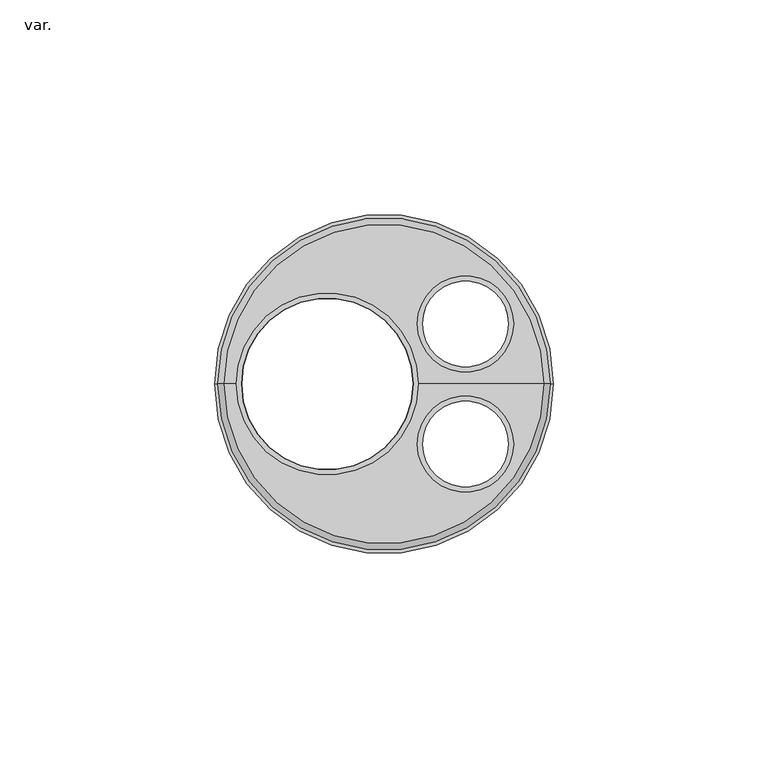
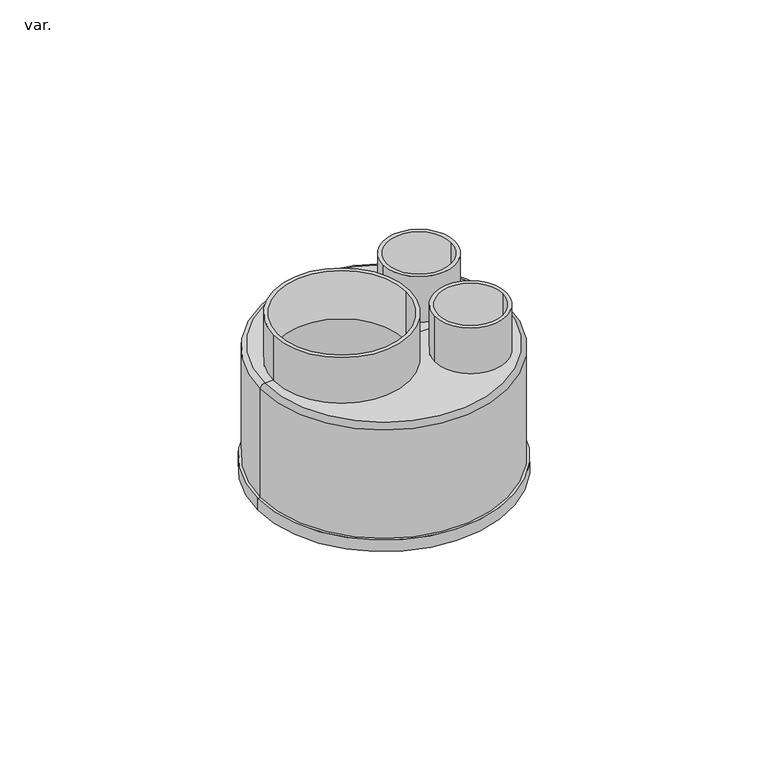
"""IFC4 building model written with IfcOpenShell, lengths in millimetres: pipe fitting geometry, AmancoWavin_ConexõesdeTubos_PEXCoifaTripla : var.."""

from ifc_helpers import new_model, si_unit, point, frame, origin, place, context, project, spatial, polyline, circle_curve, ellipse_curve, trimmed, source, transform, mapped, element, save
from ifc_brep_helpers import plane_surface, cylinder_surface, revolved_surface, advanced_brep


def var_ee3ce5f6(model_context):
    return source(origin(), model_context, "Body", "AdvancedBrep", [
        advanced_brep(
        [(-103.0559639, 0.0, 16.0), (-60.6559639, 0.0, 16.0), (-101.8559639, 0.0, 16.0), (-61.8559639, 0.0, 16.0), (-103.0559639, 0.0, 0.0), (-60.6559639, 0.0, 0.0), (-101.8559639, 0.0, 0.0), (-61.8559639, 0.0, 0.0)],
        [
            (0, 1, circle_curve(frame((-81.8559639, 0.0, 16.0), z_axis=(0.0, 0.0, 1.0), x_axis=(1.0, 0.0, 0.0)), 21.2)),
            (1, 0, circle_curve(frame((-81.8559639, 0.0, 16.0), z_axis=(0.0, 0.0, 1.0), x_axis=(1.0, 0.0, 0.0)), 21.2)),
            (2, 3, circle_curve(frame((-81.8559639, 0.0, 16.0), z_axis=(0.0, 0.0, -1.0), x_axis=(1.0, 0.0, 0.0)), 20.0)),
            (3, 2, circle_curve(frame((-81.8559639, 0.0, 16.0), z_axis=(0.0, 0.0, -1.0), x_axis=(1.0, 0.0, 0.0)), 20.0)),
            (0, 4),
            (4, 5, circle_curve(frame((-81.8559639, 0.0, 0.0), z_axis=(0.0, 0.0, 1.0), x_axis=(1.0, 0.0, 0.0)), 21.2)),
            (5, 1),
            (5, 4, circle_curve(frame((-81.8559639, 0.0, 0.0), z_axis=(0.0, 0.0, 1.0), x_axis=(1.0, 0.0, 0.0)), 21.2)),
            (2, 6),
            (6, 7, circle_curve(frame((-81.8559639, 0.0, 0.0), z_axis=(0.0, 0.0, -1.0), x_axis=(1.0, 0.0, 0.0)), 20.0)),
            (7, 3),
            (7, 6, circle_curve(frame((-81.8559639, 0.0, 0.0), z_axis=(0.0, 0.0, -1.0), x_axis=(1.0, 0.0, 0.0)), 20.0)),
            (4, 6),
            (7, 5),
        ],
        [
            plane_surface(frame((-60.6559639, 0.0, 16.0), z_axis=(0.0, 0.0, 1.0), x_axis=(0.0, 1.0, 0.0))),
            cylinder_surface(frame((-81.8559639, 0.0, -2.0), z_axis=(0.0, 0.0, 1.0), x_axis=(1.0, 0.0, 0.0)), 21.2),
            revolved_surface(polyline([(-61.855963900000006, 0.0, 0.0), (-61.855963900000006, 0.0, 16.0)]), (-81.8559639, 0.0, 0.0), (0.0, 0.0, -1.0)),
            plane_surface(frame((-68.6559639, 0.0, 0.0), z_axis=(0.0, 0.0, -1.0), x_axis=(-1.0, 0.0, 0.0))),
        ],
        [
            (0, [[1, 2], [3, 4]]),
            (1, [[-1, 5, 6, 7]]),
            (1, [[-2, -7, 8, -5]]),
            (2, [[-3, 9, 10, 11]]),
            (2, [[-4, -11, 12, -9]]),
            (3, [[13, -12, 14, -6]]),
            (3, [[-13, -8, -14, -10]]),
        ],
    ),
        advanced_brep(
        [(-60.8559639, 14.0, 16.0), (-38.4559639, 14.0, 16.0), (-59.6559639, 14.0, 16.0), (-39.6559639, 14.0, 16.0), (-60.8559639, 14.0, 0.0), (-38.4559639, 14.0, 0.0), (-59.6559639, 14.0, 0.0), (-39.6559639, 14.0, 0.0)],
        [
            (0, 1, circle_curve(frame((-49.6559639, 14.0, 16.0), z_axis=(0.0, 0.0, 1.0), x_axis=(1.0, 0.0, 0.0)), 11.2)),
            (1, 0, circle_curve(frame((-49.6559639, 14.0, 16.0), z_axis=(0.0, 0.0, 1.0), x_axis=(1.0, 0.0, 0.0)), 11.2)),
            (2, 3, circle_curve(frame((-49.6559639, 14.0, 16.0), z_axis=(0.0, 0.0, -1.0), x_axis=(1.0, 0.0, 0.0)), 10.0)),
            (3, 2, circle_curve(frame((-49.6559639, 14.0, 16.0), z_axis=(0.0, 0.0, -1.0), x_axis=(1.0, 0.0, 0.0)), 10.0)),
            (0, 4),
            (4, 5, circle_curve(frame((-49.6559639, 14.0, 0.0), z_axis=(0.0, 0.0, 1.0), x_axis=(1.0, 0.0, 0.0)), 11.2)),
            (5, 1),
            (5, 4, circle_curve(frame((-49.6559639, 14.0, 0.0), z_axis=(0.0, 0.0, 1.0), x_axis=(1.0, 0.0, 0.0)), 11.2)),
            (2, 6),
            (6, 7, circle_curve(frame((-49.6559639, 14.0, 0.0), z_axis=(0.0, 0.0, -1.0), x_axis=(1.0, 0.0, 0.0)), 10.0)),
            (7, 3),
            (7, 6, circle_curve(frame((-49.6559639, 14.0, 0.0), z_axis=(0.0, 0.0, -1.0), x_axis=(1.0, 0.0, 0.0)), 10.0)),
        ],
        [
            plane_surface(frame((-38.4559639, 14.0, 16.0), z_axis=(0.0, 0.0, 1.0), x_axis=(0.0, 1.0, 0.0))),
            cylinder_surface(frame((-49.6559639, 14.0, -2.0), z_axis=(0.0, 0.0, 1.0), x_axis=(1.0, 0.0, 0.0)), 11.2),
            revolved_surface(polyline([(-39.6559639, 14.0, 0.0), (-39.6559639, 14.0, 16.0)]), (-49.6559639, 14.0, 0.0), (0.0, 0.0, -1.0)),
            plane_surface(frame((-68.6559639, 0.0, 0.0), z_axis=(0.0, 0.0, -1.0), x_axis=(-1.0, 0.0, 0.0))),
        ],
        [
            (0, [[1, 2], [3, 4]]),
            (1, [[-1, 5, 6, 7]]),
            (1, [[-2, -7, 8, -5]]),
            (2, [[-3, 9, 10, 11]]),
            (2, [[-4, -11, 12, -9]]),
            (3, [[-6, -8], [-10, -12]]),
        ],
    ),
        advanced_brep(
        [(-60.8559639, -14.0, 16.0), (-38.4559639, -14.0, 16.0), (-59.6559639, -14.0, 16.0), (-39.6559639, -14.0, 16.0), (-60.8559639, -14.0, 0.0), (-38.4559639, -14.0, 0.0), (-59.6559639, -14.0, 0.0), (-39.6559639, -14.0, 0.0)],
        [
            (0, 1, circle_curve(frame((-49.6559639, -14.0, 16.0), z_axis=(0.0, 0.0, 1.0), x_axis=(1.0, 0.0, 0.0)), 11.2)),
            (1, 0, circle_curve(frame((-49.6559639, -14.0, 16.0), z_axis=(0.0, 0.0, 1.0), x_axis=(1.0, 0.0, 0.0)), 11.2)),
            (2, 3, circle_curve(frame((-49.6559639, -14.0, 16.0), z_axis=(0.0, 0.0, -1.0), x_axis=(1.0, 0.0, 0.0)), 10.0)),
            (3, 2, circle_curve(frame((-49.6559639, -14.0, 16.0), z_axis=(0.0, 0.0, -1.0), x_axis=(1.0, 0.0, 0.0)), 10.0)),
            (0, 4),
            (4, 5, circle_curve(frame((-49.6559639, -14.0, 0.0), z_axis=(0.0, 0.0, 1.0), x_axis=(1.0, 0.0, 0.0)), 11.2)),
            (5, 1),
            (5, 4, circle_curve(frame((-49.6559639, -14.0, 0.0), z_axis=(0.0, 0.0, 1.0), x_axis=(1.0, 0.0, 0.0)), 11.2)),
            (2, 6),
            (6, 7, circle_curve(frame((-49.6559639, -14.0, 0.0), z_axis=(0.0, 0.0, -1.0), x_axis=(1.0, 0.0, 0.0)), 10.0)),
            (7, 3),
            (7, 6, circle_curve(frame((-49.6559639, -14.0, 0.0), z_axis=(0.0, 0.0, -1.0), x_axis=(1.0, 0.0, 0.0)), 10.0)),
        ],
        [
            plane_surface(frame((-38.4559639, 14.0, 16.0), z_axis=(0.0, 0.0, 1.0), x_axis=(0.0, 1.0, 0.0))),
            cylinder_surface(frame((-49.6559639, -14.0, 0.0), z_axis=(0.0, 0.0, 1.0), x_axis=(1.0, 0.0, 0.0)), 11.2),
            revolved_surface(polyline([(-39.6559639, -14.0, 0.0), (-39.6559639, -14.0, 16.0)]), (-49.6559639, -14.0, 0.0), (0.0, 0.0, -1.0)),
            plane_surface(frame((-68.6559639, 0.0, 0.0), z_axis=(0.0, 0.0, -1.0), x_axis=(-1.0, 0.0, 0.0))),
        ],
        [
            (0, [[1, 2], [3, 4]]),
            (1, [[-1, 5, 6, 7]]),
            (1, [[-2, -7, 8, -5]]),
            (2, [[-3, 9, 10, 11]]),
            (2, [[-4, -11, 12, -9]]),
            (3, [[-6, -8], [-10, -12]]),
        ],
    ),
        advanced_brep(
        [(-105.8559639, 0.0, 1.2), (-31.4559639, 0.0, 1.2), (-61.8559639, 0.0, 1.2), (-101.8559639, 0.0, 1.2), (-39.6559639, -14.0, 1.2), (-59.6559639, -14.0, 1.2), (-39.6559639, 14.0, 1.2), (-59.6559639, 14.0, 1.2), (-31.1559639, 0.0, 0.0), (-106.1559639, 0.0, 0.0), (-101.8559639, 0.0, 0.0), (-61.8559639, 0.0, 0.0), (-59.6559639, -14.0, 0.0), (-39.6559639, -14.0, 0.0), (-59.6559639, 14.0, 0.0), (-39.6559639, 14.0, 0.0), (-31.1559639, 0.0, -40.0), (-106.1559639, 0.0, -40.0), (-29.1559639, 0.0, -40.0), (-108.1559639, 0.0, -40.0), (-29.1559639, 0.0, -36.2), (-108.1559639, 0.0, -36.2), (-29.9559639, 0.0, -36.2), (-107.3559639, 0.0, -36.2), (-29.9559639, 0.0, -0.3), (-107.3559639, 0.0, -0.3)],
        [
            (0, 1, circle_curve(frame((-68.6559639, 0.0, 1.2), z_axis=(0.0, 0.0, 1.0), x_axis=(-1.0, 0.0, 0.0)), 37.2)),
            (1, 2),
            (2, 3, circle_curve(frame((-81.8559639, 0.0, 1.2), z_axis=(0.0, 0.0, -1.0), x_axis=(1.0, 0.0, 0.0)), 20.0)),
            (3, 0),
            (4, 5, circle_curve(frame((-49.6559639, -14.0, 1.2), z_axis=(0.0, 0.0, -1.0), x_axis=(1.0, 0.0, 0.0)), 10.0)),
            (5, 4, circle_curve(frame((-49.6559639, -14.0, 1.2), z_axis=(0.0, 0.0, -1.0), x_axis=(1.0, 0.0, 0.0)), 10.0)),
            (1, 0, circle_curve(frame((-68.6559639, 0.0, 1.2), z_axis=(0.0, 0.0, 1.0), x_axis=(-1.0, 0.0, 0.0)), 37.2)),
            (3, 2, circle_curve(frame((-81.8559639, 0.0, 1.2), z_axis=(0.0, 0.0, -1.0), x_axis=(1.0, 0.0, 0.0)), 20.0)),
            (6, 7, circle_curve(frame((-49.6559639, 14.0, 1.2), z_axis=(0.0, 0.0, -1.0), x_axis=(1.0, 0.0, 0.0)), 10.0)),
            (7, 6, circle_curve(frame((-49.6559639, 14.0, 1.2), z_axis=(0.0, 0.0, -1.0), x_axis=(1.0, 0.0, 0.0)), 10.0)),
            (8, 9, circle_curve(frame((-68.6559639, 0.0, 0.0), z_axis=(0.0, 0.0, -1.0), x_axis=(-1.0, 0.0, 0.0)), 37.5)),
            (9, 10),
            (10, 11, circle_curve(frame((-81.8559639, 0.0, 0.0), z_axis=(0.0, 0.0, 1.0), x_axis=(1.0, 0.0, 0.0)), 20.0)),
            (11, 8),
            (12, 13, circle_curve(frame((-49.6559639, -14.0, 0.0), z_axis=(0.0, 0.0, 1.0), x_axis=(1.0, 0.0, 0.0)), 10.0)),
            (13, 12, circle_curve(frame((-49.6559639, -14.0, 0.0), z_axis=(0.0, 0.0, 1.0), x_axis=(1.0, 0.0, 0.0)), 10.0)),
            (9, 8, circle_curve(frame((-68.6559639, 0.0, 0.0), z_axis=(0.0, 0.0, -1.0), x_axis=(-1.0, 0.0, 0.0)), 37.5)),
            (11, 10, circle_curve(frame((-81.8559639, 0.0, 0.0), z_axis=(0.0, 0.0, 1.0), x_axis=(1.0, 0.0, 0.0)), 20.0)),
            (14, 15, circle_curve(frame((-49.6559639, 14.0, 0.0), z_axis=(0.0, 0.0, 1.0), x_axis=(1.0, 0.0, 0.0)), 10.0)),
            (15, 14, circle_curve(frame((-49.6559639, 14.0, 0.0), z_axis=(0.0, 0.0, 1.0), x_axis=(1.0, 0.0, 0.0)), 10.0)),
            (8, 16),
            (16, 17, circle_curve(frame((-68.6559639, 0.0, -40.0), z_axis=(0.0, 0.0, -1.0), x_axis=(-1.0, 0.0, 0.0)), 37.5)),
            (17, 9),
            (17, 16, circle_curve(frame((-68.6559639, 0.0, -40.0), z_axis=(0.0, 0.0, -1.0), x_axis=(-1.0, 0.0, 0.0)), 37.5)),
            (16, 18),
            (18, 19, circle_curve(frame((-68.6559639, 0.0, -40.0), z_axis=(0.0, 0.0, -1.0), x_axis=(-1.0, 0.0, 0.0)), 39.5)),
            (19, 17),
            (19, 18, circle_curve(frame((-68.6559639, 0.0, -40.0), z_axis=(0.0, 0.0, -1.0), x_axis=(-1.0, 0.0, 0.0)), 39.5)),
            (18, 20),
            (20, 21, circle_curve(frame((-68.6559639, 0.0, -36.2), z_axis=(0.0, 0.0, -1.0), x_axis=(-1.0, 0.0, 0.0)), 39.5)),
            (21, 19),
            (21, 20, circle_curve(frame((-68.6559639, 0.0, -36.2), z_axis=(0.0, 0.0, -1.0), x_axis=(-1.0, 0.0, 0.0)), 39.5)),
            (20, 22),
            (22, 23, circle_curve(frame((-68.6559639, 0.0, -36.2), z_axis=(0.0, 0.0, -1.0), x_axis=(-1.0, 0.0, 0.0)), 38.7)),
            (23, 21),
            (23, 22, circle_curve(frame((-68.6559639, 0.0, -36.2), z_axis=(0.0, 0.0, -1.0), x_axis=(-1.0, 0.0, 0.0)), 38.7)),
            (22, 24),
            (24, 25, circle_curve(frame((-68.6559639, 0.0, -0.3), z_axis=(0.0, 0.0, -1.0), x_axis=(-1.0, 0.0, 0.0)), 38.7)),
            (25, 23),
            (25, 24, circle_curve(frame((-68.6559639, 0.0, -0.3), z_axis=(0.0, 0.0, -1.0), x_axis=(-1.0, 0.0, 0.0)), 38.7)),
            (0, 25, circle_curve(frame((-105.8559639, 0.0, -0.3), z_axis=(0.0, -1.0, 0.0), x_axis=(-1.0, 0.0, 0.0)), 1.5)),
            (24, 1, circle_curve(frame((-31.4559639, 0.0, -0.3), z_axis=(0.0, -1.0, 0.0), x_axis=(1.0, 0.0, 0.0)), 1.5)),
            (10, 3),
            (2, 11),
            (14, 7),
            (6, 15),
            (12, 5),
            (4, 13),
        ],
        [
            plane_surface(frame((-68.6559639, 0.0, 1.2), z_axis=(0.0, 0.0, 1.0), x_axis=(-1.0, 0.0, 0.0))),
            plane_surface(frame((-68.6559639, 0.0, 0.0), z_axis=(0.0, 0.0, -1.0), x_axis=(-1.0, 0.0, 0.0))),
            revolved_surface(polyline([(-106.1559639, 0.0, 0.0), (-106.1559639, 0.0, -40.0)]), (-68.6559639, 0.0, -2214.3150031), (0.0, 0.0, 1.0)),
            plane_surface(frame((-68.6559639, 0.0, -40.0), z_axis=(0.0, 0.0, -1.0), x_axis=(-1.0, 0.0, 0.0))),
            cylinder_surface(frame((-68.6559639, 0.0, -2214.3150031), z_axis=(0.0, 0.0, 1.0), x_axis=(-1.0, 0.0, 0.0)), 39.5),
            plane_surface(frame((-68.6559639, 0.0, -36.2), z_axis=(0.0, 0.0, 1.0), x_axis=(-1.0, 0.0, 0.0))),
            cylinder_surface(frame((-68.6559639, 0.0, -2214.3150031), z_axis=(0.0, 0.0, 1.0), x_axis=(-1.0, 0.0, 0.0)), 38.7),
            revolved_surface(trimmed(ellipse_curve(frame((-105.8559639, 0.0, -0.3), z_axis=(0.0, 1.0, 0.0), x_axis=(-1.0, 0.0, 0.0)), 1.5, 1.5), [point((-107.3559639, 0.0, -0.3))], [point((-105.8559639, 0.0, 1.2))], True, "CARTESIAN"), (-68.6559639, 0.0, -2214.3150031), (0.0, 0.0, 1.0)),
            revolved_surface(polyline([(-61.855963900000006, 0.0, 1.2), (-61.855963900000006, 0.0, 0.0)]), (-81.8559639, 0.0, 0.0), (0.0, 0.0, 1.0)),
            revolved_surface(polyline([(-39.6559639, 14.0, 1.2), (-39.6559639, 14.0, 0.0)]), (-49.6559639, 14.0, 0.0), (0.0, 0.0, 1.0)),
            revolved_surface(polyline([(-39.6559639, -14.0, 1.2), (-39.6559639, -14.0, 0.0)]), (-49.6559639, -14.0, 0.0), (0.0, 0.0, 1.0)),
        ],
        [
            (0, [[1, 2, 3, 4], [5, 6]]),
            (0, [[7, -4, 8, -2], [9, 10]]),
            (1, [[11, 12, 13, 14], [15, 16]]),
            (1, [[17, -14, 18, -12], [19, 20]]),
            (2, [[-11, 21, 22, 23]]),
            (2, [[-17, -23, 24, -21]]),
            (3, [[-22, 25, 26, 27]]),
            (3, [[-24, -27, 28, -25]]),
            (4, [[-26, 29, 30, 31]]),
            (4, [[-28, -31, 32, -29]]),
            (5, [[-30, 33, 34, 35]]),
            (5, [[-32, -35, 36, -33]]),
            (6, [[-34, 37, 38, 39]]),
            (6, [[-36, -39, 40, -37]]),
            (7, [[-1, 41, -38, 42]]),
            (7, [[-7, -42, -40, -41]]),
            (8, [[43, -3, 44, -13]]),
            (8, [[-43, -18, -44, -8]]),
            (9, [[45, -9, 46, -19]]),
            (9, [[-45, -20, -46, -10]]),
            (10, [[47, -5, 48, -15]]),
            (10, [[-47, -16, -48, -6]]),
        ],
    ),
    ])


if __name__ == "__main__":
    model = new_model("IFC4")
    model_context = context("Model", 3, world=origin())
    ifc_project = project(units=[si_unit("LENGTHUNIT", "METRE", prefix="MILLI")], contexts=[model_context])
    site = spatial("IfcSite", under=ifc_project)
    building = spatial("IfcBuilding", under=site)
    placement = place(None, origin())
    var_shape = var_ee3ce5f6(model_context)
    element("IfcPipeFitting", 1, ObjectType="AmancoWavin_ConexõesdeTubos_PEXCoifaTripla : var.", at=placement, inside=building, context=model_context, shape_type="MappedRepresentation", body=[
        mapped(var_shape, transform((0.0, 0.0, 0.0), x_axis=(1.0, 0.0, 0.0), y_axis=(0.0, 1.0, 0.0), z_axis=(0.0, 0.0, 1.0))),
    ])
    save(model, "model.ifc")
